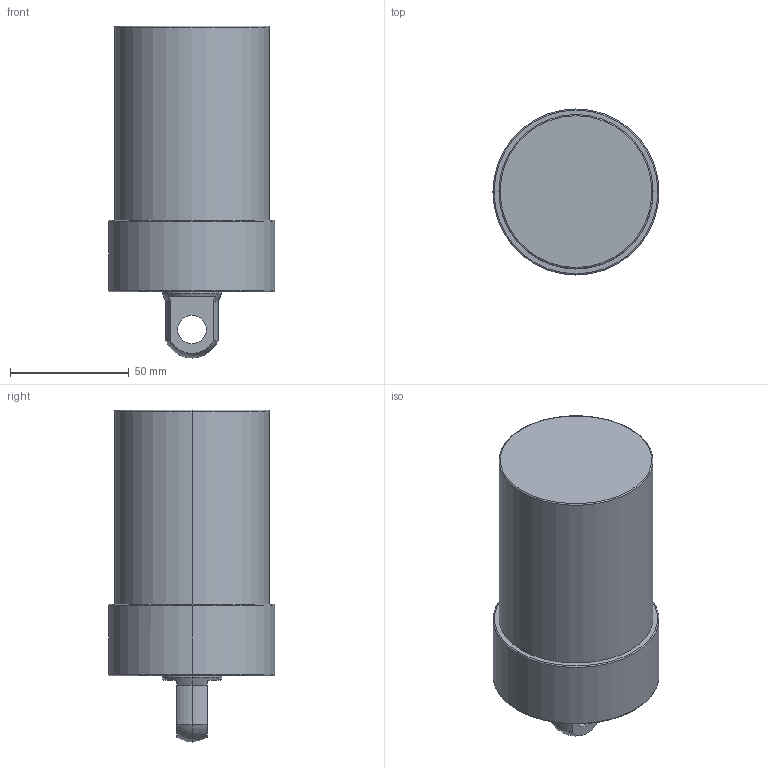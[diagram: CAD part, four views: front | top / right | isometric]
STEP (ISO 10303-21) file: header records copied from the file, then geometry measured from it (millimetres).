
FILE_DESCRIPTION (( 'STEP AP203' ), '1' );
FILE_NAME ('CLLU-065GP-065.STEP', '2020-01-06T09:26:07', ( '' ), ( '' ), 'SwSTEP 2.0', 'SolidWorks 2015', '' );
FILE_SCHEMA (( 'CONFIG_CONTROL_DESIGN' ));
Length unit declared in the file: millimetre
Products named in the file (1): CLLU-065GP-065
Bounding box: 70 x 70 x 140 mm (x, y, z)
Volume: 391742.9 mm3; surface area: 33839.8 mm2
Topology: 1 solids, 1 shells, 58 faces, 131 edges, 75 vertices
Faces by surface type: cylinder 23, cone 18, plane 9, torus 6, sphere 2
Entity records: 1658 total; most frequent: DIRECTION 311, CARTESIAN_POINT 269, ORIENTED_EDGE 246, AXIS2_PLACEMENT_3D 133, EDGE_CURVE 123, VERTEX_POINT 75, CIRCLE 74, EDGE_LOOP 68
